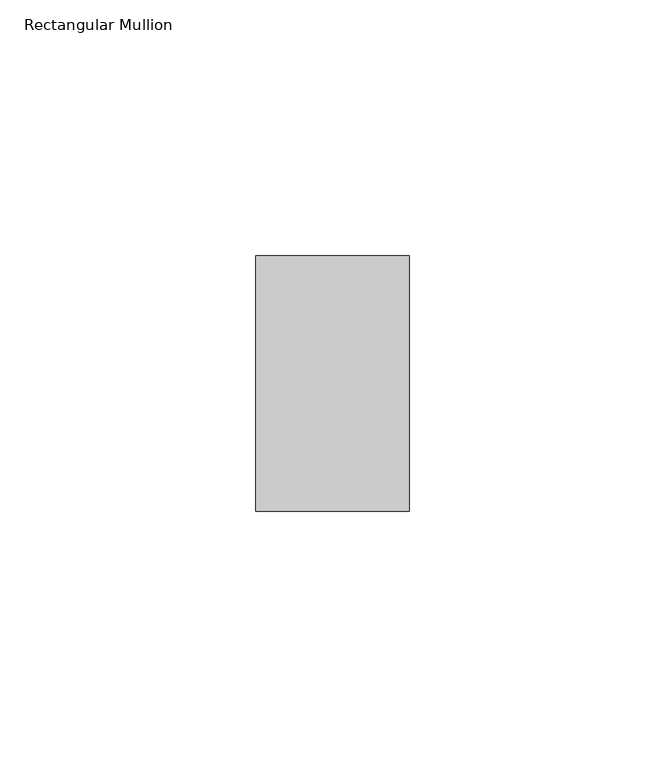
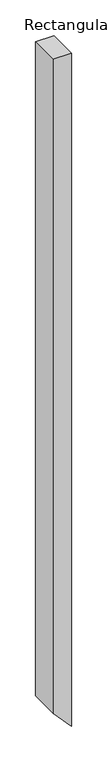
"""IFC4 building model written with IfcOpenShell, lengths in millimetres: member geometry, Rectangular Mullion : ARQ_TV_MULL_50x30mm."""

from ifc_helpers import new_model, si_unit, frame, origin, place, context, project, spatial, polyline, outline, extrude, source, transform, mapped, element, save


def rectangular_mullion_cfaebaba(model_context):
    return source(origin(), model_context, "Body", "SweptSolid", [
        extrude(outline(polyline([(0.0, 0.0), (0.0, -30.0), (-1122.463445, -30.0), (-1154.9812982, 0.0), (0.0, 0.0)])), frame((0.0, -25.0, 0.0), z_axis=(0.0, 1.0, 0.0), x_axis=(0.0, 0.0, 1.0)), (0.0, 0.0, 1.0), 50.0),
    ])


if __name__ == "__main__":
    model = new_model("IFC4")
    model_context = context("Model", 3, world=origin())
    ifc_project = project(units=[si_unit("LENGTHUNIT", "METRE", prefix="MILLI")], contexts=[model_context])
    site = spatial("IfcSite", under=ifc_project)
    building = spatial("IfcBuilding", under=site)
    placement = place(None, origin())
    rectangular_mullion_shape = rectangular_mullion_cfaebaba(model_context)
    element("IfcMember", 1, ObjectType="Rectangular Mullion : ARQ_TV_MULL_50x30mm", at=placement, inside=building, context=model_context, shape_type="MappedRepresentation", body=[
        mapped(rectangular_mullion_shape, transform((0.0, 0.0, 0.0), x_axis=(1.0, 0.0, 0.0), y_axis=(0.0, 1.0, 0.0), z_axis=(0.0, 0.0, 1.0))),
    ])
    save(model, "model.ifc")
